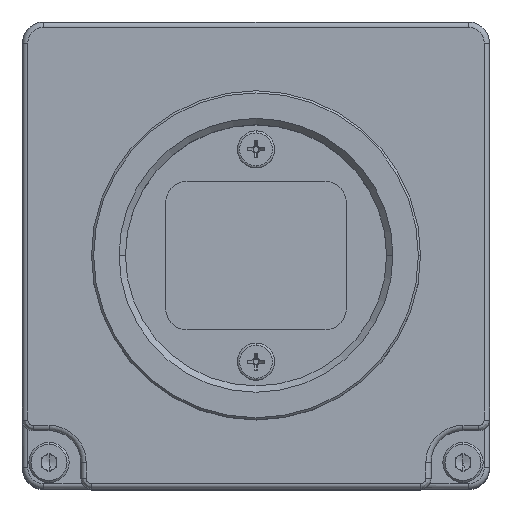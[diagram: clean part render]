
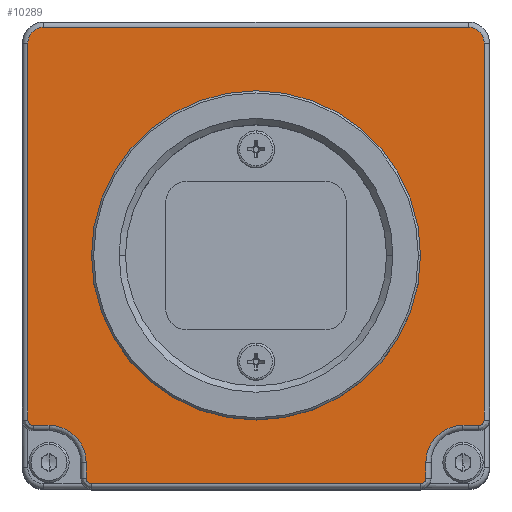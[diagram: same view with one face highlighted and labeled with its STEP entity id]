
A CAD part, top view. The second image highlights one B-rep face of the part: STEP entity #10289.
In plain terms, the highlighted planar face has unit normal (0, 0, 1).
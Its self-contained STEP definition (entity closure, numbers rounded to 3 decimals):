
#105=DIRECTION('',(1.,0.,0.));
#106=VECTOR('',#105,31.);
#107=CARTESIAN_POINT('',(-15.5,-21.5,54.));
#108=LINE('',#107,#106);
#113=CARTESIAN_POINT('',(-20.,20.,54.));
#114=DIRECTION('',(0.,0.,1.));
#115=DIRECTION('',(0.,1.,0.));
#116=AXIS2_PLACEMENT_3D('',#113,#114,#115);
#118=CARTESIAN_POINT('',(20.,20.,54.));
#119=DIRECTION('',(0.,0.,1.));
#120=DIRECTION('',(1.,0.,0.));
#121=AXIS2_PLACEMENT_3D('',#118,#119,#120);
#123=CARTESIAN_POINT('',(21.,-15.5,54.));
#124=DIRECTION('',(0.,0.,1.));
#125=DIRECTION('',(0.,-1.,0.));
#126=AXIS2_PLACEMENT_3D('',#123,#124,#125);
#128=CARTESIAN_POINT('',(19.5,-19.5,54.));
#129=DIRECTION('',(0.,0.,-1.));
#130=DIRECTION('',(-1.,0.,0.));
#131=AXIS2_PLACEMENT_3D('',#128,#129,#130);
#133=CARTESIAN_POINT('',(15.5,-21.,54.));
#134=DIRECTION('',(0.,0.,1.));
#135=DIRECTION('',(0.,-1.,0.));
#136=AXIS2_PLACEMENT_3D('',#133,#134,#135);
#138=CARTESIAN_POINT('',(-15.5,-21.,54.));
#139=DIRECTION('',(0.,0.,1.));
#140=DIRECTION('',(-1.,0.,0.));
#141=AXIS2_PLACEMENT_3D('',#138,#139,#140);
#143=CARTESIAN_POINT('',(-19.5,-19.5,54.));
#144=DIRECTION('',(0.,0.,-1.));
#145=DIRECTION('',(0.,1.,0.));
#146=AXIS2_PLACEMENT_3D('',#143,#144,#145);
#148=CARTESIAN_POINT('',(-21.,-15.5,54.));
#149=DIRECTION('',(0.,0.,1.));
#150=DIRECTION('',(-1.,0.,0.));
#151=AXIS2_PLACEMENT_3D('',#148,#149,#150);
#153=CARTESIAN_POINT('',(0.,0.,54.));
#154=DIRECTION('',(0.,0.,-1.));
#155=DIRECTION('',(-1.,0.,0.));
#156=AXIS2_PLACEMENT_3D('',#153,#154,#155);
#158=CARTESIAN_POINT('',(0.,0.,54.));
#159=DIRECTION('',(0.,0.,-1.));
#160=DIRECTION('',(1.,0.,0.));
#161=AXIS2_PLACEMENT_3D('',#158,#159,#160);
#178=DIRECTION('',(0.,-1.,0.));
#179=VECTOR('',#178,35.5);
#180=CARTESIAN_POINT('',(-21.5,20.,54.));
#181=LINE('',#180,#179);
#201=DIRECTION('',(1.,0.,0.));
#202=VECTOR('',#201,1.5);
#203=CARTESIAN_POINT('',(-21.,-16.,54.));
#204=LINE('',#203,#202);
#224=DIRECTION('',(0.,-1.,0.));
#225=VECTOR('',#224,1.5);
#226=CARTESIAN_POINT('',(-16.,-19.5,54.));
#227=LINE('',#226,#225);
#377=DIRECTION('',(-1.,0.,0.));
#378=VECTOR('',#377,40.);
#379=CARTESIAN_POINT('',(20.,21.5,54.));
#380=LINE('',#379,#378);
#505=DIRECTION('',(0.,1.,0.));
#506=VECTOR('',#505,35.5);
#507=CARTESIAN_POINT('',(21.5,-15.5,54.));
#508=LINE('',#507,#506);
#585=DIRECTION('',(1.,0.,0.));
#586=VECTOR('',#585,1.5);
#587=CARTESIAN_POINT('',(19.5,-16.,54.));
#588=LINE('',#587,#586);
#635=DIRECTION('',(0.,1.,0.));
#636=VECTOR('',#635,1.5);
#637=CARTESIAN_POINT('',(16.,-21.,54.));
#638=LINE('',#637,#636);
#9722=CARTESIAN_POINT('',(21.5,20.,54.));
#9723=CARTESIAN_POINT('',(20.,21.5,54.));
#9724=VERTEX_POINT('',#9722);
#9725=VERTEX_POINT('',#9723);
#9726=CARTESIAN_POINT('',(-20.,21.5,54.));
#9727=CARTESIAN_POINT('',(-21.5,20.,54.));
#9728=VERTEX_POINT('',#9726);
#9729=VERTEX_POINT('',#9727);
#9730=CARTESIAN_POINT('',(21.5,-15.5,54.));
#9731=VERTEX_POINT('',#9730);
#9732=CARTESIAN_POINT('',(21.,-16.,54.));
#9733=VERTEX_POINT('',#9732);
#9734=CARTESIAN_POINT('',(19.5,-16.,54.));
#9735=VERTEX_POINT('',#9734);
#9736=CARTESIAN_POINT('',(16.,-19.5,54.));
#9737=VERTEX_POINT('',#9736);
#9738=CARTESIAN_POINT('',(16.,-21.,54.));
#9739=VERTEX_POINT('',#9738);
#9740=CARTESIAN_POINT('',(15.5,-21.5,54.));
#9741=VERTEX_POINT('',#9740);
#9742=CARTESIAN_POINT('',(-15.5,-21.5,54.));
#9743=VERTEX_POINT('',#9742);
#9744=CARTESIAN_POINT('',(-16.,-21.,54.));
#9745=VERTEX_POINT('',#9744);
#9746=CARTESIAN_POINT('',(-16.,-19.5,54.));
#9747=VERTEX_POINT('',#9746);
#9748=CARTESIAN_POINT('',(-19.5,-16.,54.));
#9749=VERTEX_POINT('',#9748);
#9750=CARTESIAN_POINT('',(-21.,-16.,54.));
#9751=VERTEX_POINT('',#9750);
#9752=CARTESIAN_POINT('',(-21.5,-15.5,54.));
#9753=VERTEX_POINT('',#9752);
#9754=CARTESIAN_POINT('',(-15.5,0.,54.));
#9755=CARTESIAN_POINT('',(15.5,0.,54.));
#9756=VERTEX_POINT('',#9754);
#9757=VERTEX_POINT('',#9755);
#10245=CARTESIAN_POINT('',(0.,0.,54.));
#10246=DIRECTION('',(0.,0.,1.));
#10247=DIRECTION('',(1.,0.,0.));
#10248=AXIS2_PLACEMENT_3D('',#10245,#10246,#10247);
#10249=PLANE('',#10248);
#10251=ORIENTED_EDGE('',*,*,#10250,.F.);
#10253=ORIENTED_EDGE('',*,*,#10252,.F.);
#10255=ORIENTED_EDGE('',*,*,#10254,.F.);
#10257=ORIENTED_EDGE('',*,*,#10256,.F.);
#10259=ORIENTED_EDGE('',*,*,#10258,.F.);
#10261=ORIENTED_EDGE('',*,*,#10260,.F.);
#10263=ORIENTED_EDGE('',*,*,#10262,.F.);
#10265=ORIENTED_EDGE('',*,*,#10264,.F.);
#10267=ORIENTED_EDGE('',*,*,#10266,.F.);
#10268=ORIENTED_EDGE('',*,*,#10228,.F.);
#10270=ORIENTED_EDGE('',*,*,#10269,.F.);
#10272=ORIENTED_EDGE('',*,*,#10271,.F.);
#10274=ORIENTED_EDGE('',*,*,#10273,.F.);
#10276=ORIENTED_EDGE('',*,*,#10275,.F.);
#10278=ORIENTED_EDGE('',*,*,#10277,.F.);
#10280=ORIENTED_EDGE('',*,*,#10279,.F.);
#10281=EDGE_LOOP('',(#10251,#10253,#10255,#10257,#10259,#10261,#10263,#10265,
#10267,#10268,#10270,#10272,#10274,#10276,#10278,#10280));
#10282=FACE_OUTER_BOUND('',#10281,.F.);
#10284=ORIENTED_EDGE('',*,*,#10283,.F.);
#10286=ORIENTED_EDGE('',*,*,#10285,.F.);
#10287=EDGE_LOOP('',(#10284,#10286));
#10288=FACE_BOUND('',#10287,.F.);
#117=CIRCLE('',#116,1.5);
#122=CIRCLE('',#121,1.5);
#127=CIRCLE('',#126,0.5);
#132=CIRCLE('',#131,3.5);
#137=CIRCLE('',#136,0.5);
#142=CIRCLE('',#141,0.5);
#147=CIRCLE('',#146,3.5);
#152=CIRCLE('',#151,0.5);
#157=CIRCLE('',#156,15.5);
#162=CIRCLE('',#161,15.5);
#10228=EDGE_CURVE('',#9743,#9741,#108,.T.);
#10250=EDGE_CURVE('',#9728,#9729,#117,.T.);
#10252=EDGE_CURVE('',#9725,#9728,#380,.T.);
#10254=EDGE_CURVE('',#9724,#9725,#122,.T.);
#10256=EDGE_CURVE('',#9731,#9724,#508,.T.);
#10258=EDGE_CURVE('',#9733,#9731,#127,.T.);
#10260=EDGE_CURVE('',#9735,#9733,#588,.T.);
#10262=EDGE_CURVE('',#9737,#9735,#132,.T.);
#10264=EDGE_CURVE('',#9739,#9737,#638,.T.);
#10266=EDGE_CURVE('',#9741,#9739,#137,.T.);
#10269=EDGE_CURVE('',#9745,#9743,#142,.T.);
#10271=EDGE_CURVE('',#9747,#9745,#227,.T.);
#10273=EDGE_CURVE('',#9749,#9747,#147,.T.);
#10275=EDGE_CURVE('',#9751,#9749,#204,.T.);
#10277=EDGE_CURVE('',#9753,#9751,#152,.T.);
#10279=EDGE_CURVE('',#9729,#9753,#181,.T.);
#10283=EDGE_CURVE('',#9756,#9757,#157,.T.);
#10285=EDGE_CURVE('',#9757,#9756,#162,.T.);
#10289=ADVANCED_FACE('',(#10282,#10288),#10249,.T.);
